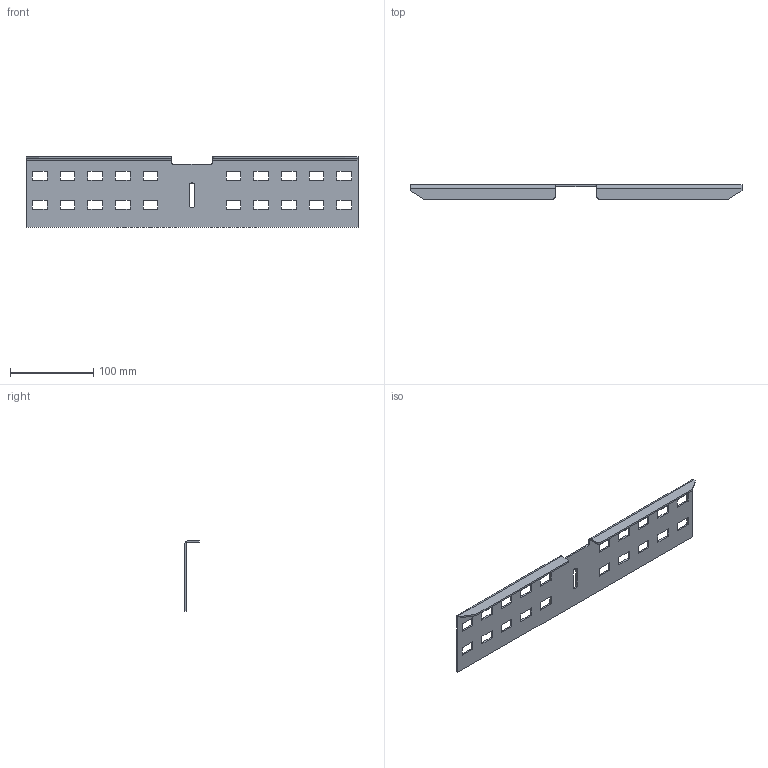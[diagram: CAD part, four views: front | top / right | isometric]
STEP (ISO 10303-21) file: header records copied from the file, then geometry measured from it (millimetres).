
FILE_DESCRIPTION(('Creo Elements/Direct Modeling STEP Export'),'2;1');
FILE_NAME('WPCH10-HDG.stp','2020-12-14T12:52:53',(''),(''),'PTC Creo Elements/Direct Modeling STEP processor for AP214 (Solid Model)','PTC Creo Elements/Direct Modeling 19.0C 15-Aug-2015 (C) Parametric Technology GmbH','');
FILE_SCHEMA(('AUTOMOTIVE_DESIGN { 1 0 10303 214 1 1 1 1 }'));
Length unit declared in the file: millimetre
Products named in the file (2): WPCH10-HDG
Assembly tree (1 placements, depth 2):
  WPCH10-HDG
    WPCH10-HDG
Bounding box: 399.6 x 17 x 85 mm (x, y, z)
Volume: 67981.8 mm3; surface area: 72472.7 mm2
Topology: 1 solids, 1 shells, 188 faces, 558 edges, 372 vertices
Faces by surface type: plane 98, cylinder 90
Entity records: 6463 total; most frequent: CARTESIAN_POINT 1118, DIRECTION 1116, ORIENTED_EDGE 1116, EDGE_CURVE 558, VECTOR 376, LINE 376, VERTEX_POINT 372, AXIS2_PLACEMENT_3D 370
